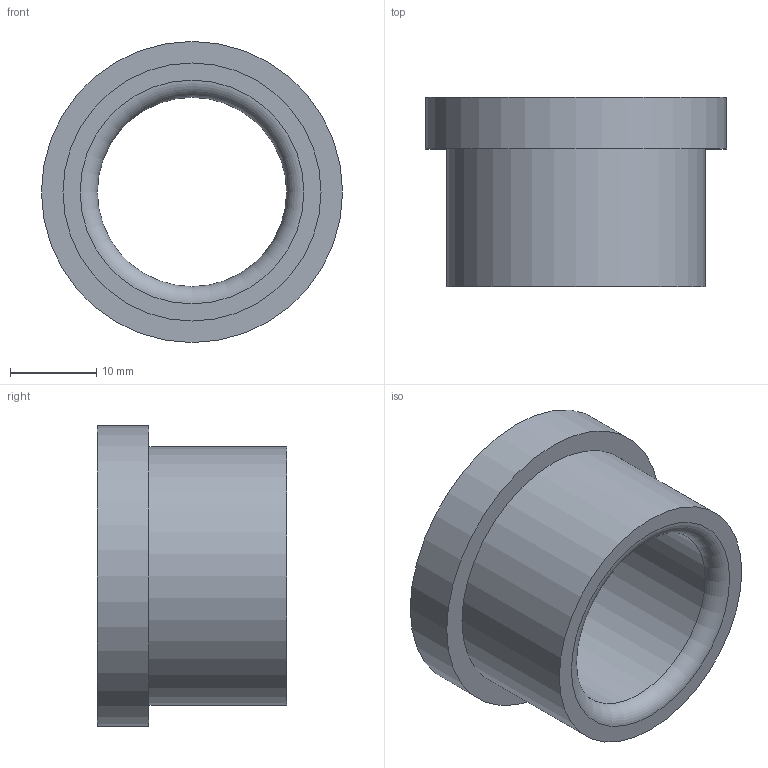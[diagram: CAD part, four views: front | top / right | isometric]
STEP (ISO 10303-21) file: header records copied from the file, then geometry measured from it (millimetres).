
FILE_DESCRIPTION(/* description */ ('STEP AP214'),/* implementation_level */ '2;1');
FILE_NAME(/* name */ '03_12_17927',/* time_stamp */ '2023-06-15T11:35:32+02:00',/* author */ ('License CC BY-ND 4.0'),/* organization */ ('CADENAS'),/* preprocessor_version */ 'ST-DEVELOPER v19.3',/* originating_system */ 'PARTsolutions',/* authorisation */ ' ');
FILE_SCHEMA (('AUTOMOTIVE_DESIGN {1 0 10303 214 3 1 1}'));
Length unit declared in the file: millimetre
Products named in the file (1): VA_Bushing_17927
Bounding box: 35 x 22 x 35 mm (x, y, z)
Volume: 8501.9 mm3; surface area: 4743.8 mm2
Topology: 1 solids, 1 shells, 10 faces, 16 edges, 10 vertices
Faces by surface type: cylinder 4, plane 4, torus 2
Full cylindrical faces by diameter (mm): 22 x1, 22.6 x1, 30 x1, 35 x1
Entity records: 302 total; most frequent: DIRECTION 42, CARTESIAN_POINT 31, AXIS2_PLACEMENT_3D 21, ORIENTED_EDGE 20, EDGE_LOOP 20, FACE_BOUND 20, EDGE_CURVE 10, VERTEX_POINT 10
